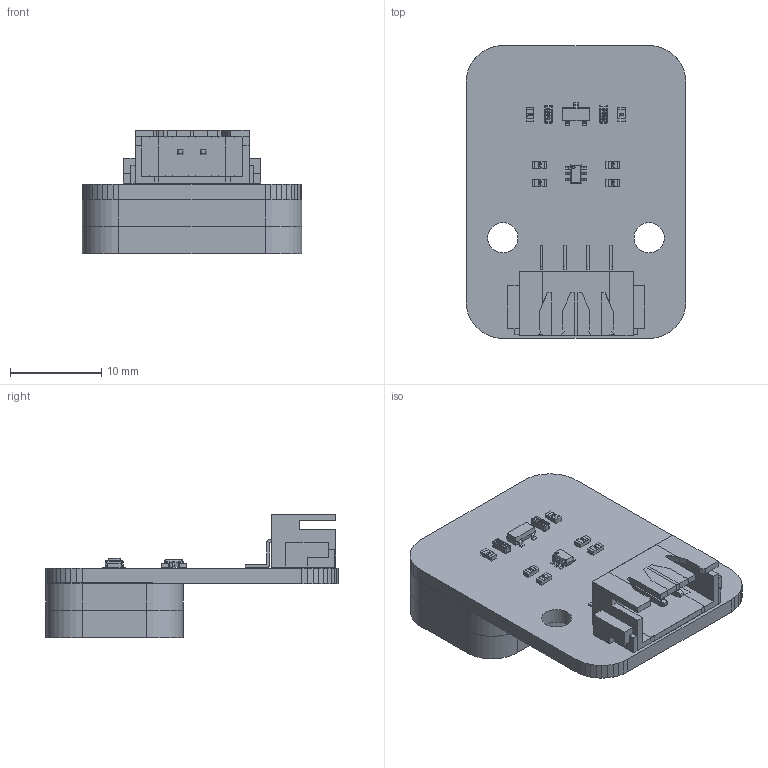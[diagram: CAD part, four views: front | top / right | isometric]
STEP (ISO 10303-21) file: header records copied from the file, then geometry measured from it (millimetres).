
FILE_DESCRIPTION(('Open CASCADE Model'),'2;1');
FILE_NAME('Open CASCADE Shape Model','2024-12-25T22:38:22',('Author'),( 'Open CASCADE'),'Open CASCADE STEP processor 6.5','Open CASCADE 6.5' ,'Unknown');
FILE_SCHEMA(('AUTOMOTIVE_DESIGN { 1 0 10303 214 1 1 1 1 }'));
Length unit declared in the file: millimetre
Products named in the file (27): PCB; Board; U1; CircuitWorks-SOT-23; R8; 0603_R; R7; R6; R5; R2; R1; Q1; User_Library-sot363; P1; 4pin-2.5; D2; User_Library-Led_3528_SingleColor; D1; C2; User_Library-0603(1608M)_Cap; C1; U2; veml6040; Free-Models; 晇伎換覜ん盓殤; \X2\989C82724F20611F5668652F67B64E0A\X0\; \X2\989C82724F20611F5668652F67B64E0B\X0\
Assembly tree (33 placements, depth 4):
  PCB
    Board
    U1
      CircuitWorks-SOT-23
    R8
      0603_R
    R7
      0603_R
    R6
      0603_R
    R5
      0603_R
    R2
      0603_R
    R1
      0603_R
    Q1
      User_Library-sot363
    P1
      4pin-2.5
    D2
      User_Library-Led_3528_SingleColor
    D1
      User_Library-Led_3528_SingleColor
    C2
      User_Library-0603(1608M)_Cap
    C1
      User_Library-0603(1608M)_Cap
    U2
      veml6040
    Free-Models
      晇伎換覜ん盓殤
        \X2\989C82724F20611F5668652F67B64E0A\X0\
        \X2\989C82724F20611F5668652F67B64E0B\X0\
Bounding box: 24.02 x 32.02 x 13.47 mm (x, y, z)
Volume: 3325.6 mm3; surface area: 4752 mm2
Topology: 22 solids, 22 shells, 1057 faces, 2852 edges, 1855 vertices
Faces by surface type: plane 737, cylinder 144, bspline 144, extrusion 30, cone 2
Full cylindrical faces by diameter (mm): 3.3 x2
Entity records: 57600 total; most frequent: CARTESIAN_POINT 16741, DIRECTION 6037, VECTOR 4246, LINE 4241, ORIENTED_EDGE 3814, PCURVE 3814, DEFINITIONAL_REPRESENTATION 3814, EDGE_CURVE 1907
